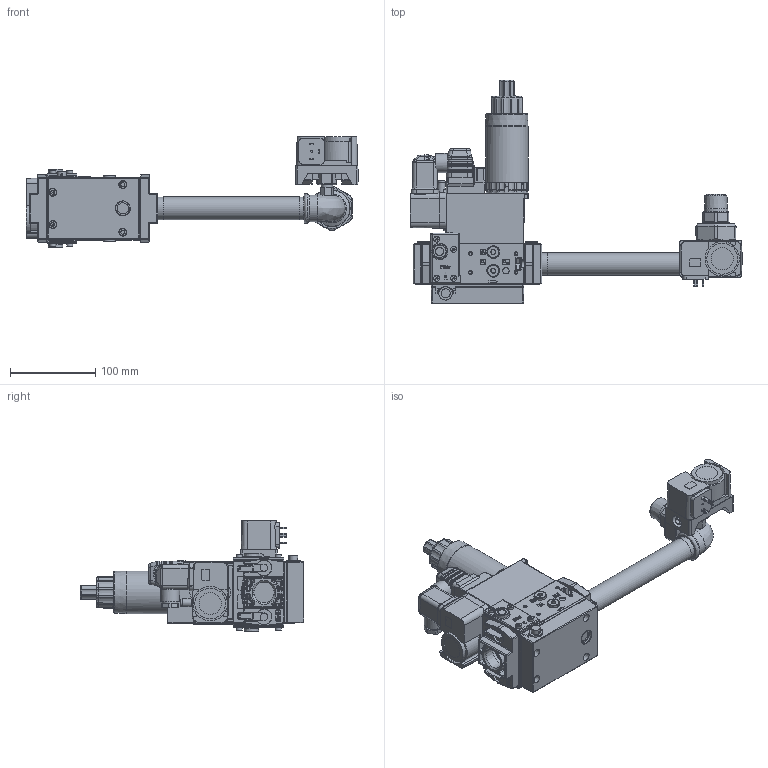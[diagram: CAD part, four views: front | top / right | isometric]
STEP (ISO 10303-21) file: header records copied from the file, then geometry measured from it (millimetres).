
FILE_DESCRIPTION (( 'STEP AP214' ), '1' );
FILE_NAME ('19990705.STEP', '2026-10-09T11:54:36', ( '' ), ( '' ), 'SwSTEP 2.0', 'SolidWorks 2025', '' );
FILE_SCHEMA (( 'AUTOMOTIVE_DESIGN' ));
Length unit declared in the file: millimetre
Products named in the file (1): 19990705
Bounding box: 390.51 x 263 x 130.53 mm (x, y, z)
Volume: 1801462.6 mm3; surface area: 257342.8 mm2
Topology: 54 solids, 54 shells, 4431 faces, 11185 edges, 7004 vertices
Faces by surface type: plane 2022, bspline 1039, cylinder 963, cone 317, torus 66, sphere 24
Full cylindrical faces by diameter (mm): 0.7 x2, 1.5 x2, 1.95 x1, 2 x15, 2.45 x1, 2.459 x1, 2.5 x1, 2.6 x1, 2.9 x2, 3 x1, 3.55 x12, 4 x17, 4.5 x3, 4.8 x1, 5 x2, 6.2 x1, 7 x11, 8 x2, 8.8 x1, 9 x3, 9.73 x1, 10 x2, 10.6 x2, 12.5 x2, 13 x1, 13.1 x1, 13.16 x1, 14 x6, 15 x12, 15.2 x1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
Entity records: 187058 total; most frequent: CARTESIAN_POINT 92452, ORIENTED_EDGE 21344, DIRECTION 15394, EDGE_CURVE 10672, VERTEX_POINT 6872, LINE 5610, VECTOR 5610, EDGE_LOOP 5032
